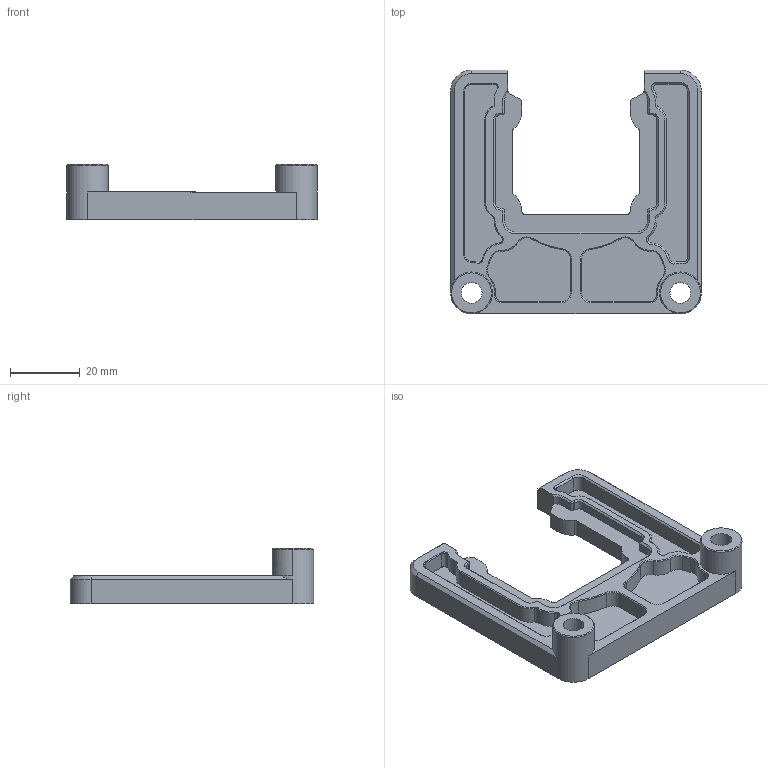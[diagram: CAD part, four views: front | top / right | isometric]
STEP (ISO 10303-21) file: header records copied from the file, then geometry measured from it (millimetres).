
FILE_DESCRIPTION((''),'2;1');
FILE_NAME('G-PORT-01','2024-04-25T10:10:27',('DELL'),(''),'CREO PARAMETRIC BY PTC INC, 2022073','CREO PARAMETRIC BY PTC INC, 2022073','');
FILE_SCHEMA(('CONFIG_CONTROL_DESIGN','SHAPE_APPEARANCE_LAYERS_GROUPS'));
Length unit declared in the file: millimetre
Products named in the file (1): G-PORT-01
Bounding box: 72 x 70 x 16 mm (x, y, z)
Volume: 20285.4 mm3; surface area: 12792.5 mm2
Topology: 1 solids, 1 shells, 229 faces, 590 edges, 367 vertices
Faces by surface type: plane 89, cylinder 80, cone 60
Entity records: 7295 total; most frequent: DIRECTION 1273, CARTESIAN_POINT 1210, ORIENTED_EDGE 1180, EDGE_CURVE 590, AXIS2_PLACEMENT_3D 462, VERTEX_POINT 367, VECTOR 349, LINE 349
